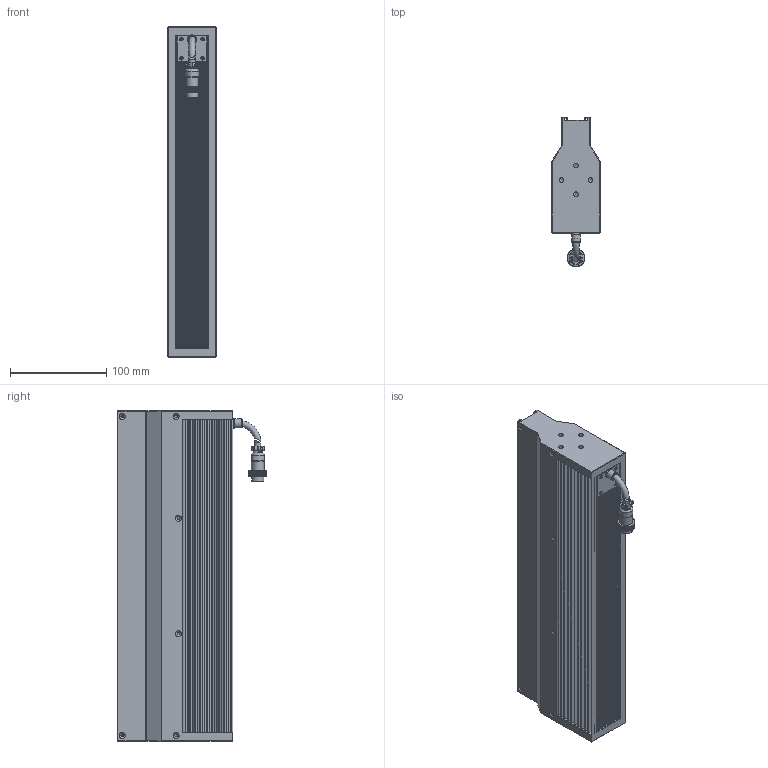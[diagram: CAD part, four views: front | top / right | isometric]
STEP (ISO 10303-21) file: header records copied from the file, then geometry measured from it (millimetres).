
FILE_DESCRIPTION (( 'STEP AP203' ), '1' );
FILE_NAME ('OPT-LSNL344-R-V1.1尨砩芞.STEP', '2025-02-17T11:01:24', ( '' ), ( '' ), 'SwSTEP 2.0', 'SolidWorks 2016', '' );
FILE_SCHEMA (( 'CONFIG_CONTROL_DESIGN' ));
Products named in the file (1): OPT-LSNL344-R-V1.1尨砩芞
Bounding box: 50.02 x 155.15 x 344 mm (x, y, z)
Volume: 1253223.6 mm3; surface area: 415856.7 mm2
Topology: 5 solids, 8 shells, 3581 faces, 8158 edges, 4599 vertices
Faces by surface type: bspline 2059, cylinder 747, plane 734, cone 33, torus 8
Full cylindrical faces by diameter (mm): 0.95 x6, 1.1 x2, 1.4 x2, 2 x4, 2.5 x8, 3 x8, 3.4 x12, 3.5 x4, 5 x8, 6.4 x3, 7.5 x1, 8.6 x1, 9.3 x1, 9.8 x1, 10 x1, 13.2 x1, 14 x1, 16.1 x1
Entity records: 124964 total; most frequent: CARTESIAN_POINT 64044, ORIENTED_EDGE 15982, EDGE_CURVE 7991, DIRECTION 5867, B_SPLINE_CURVE_WITH_KNOTS 5571, VERTEX_POINT 4542, EDGE_LOOP 3749, FACE_OUTER_BOUND 3654
